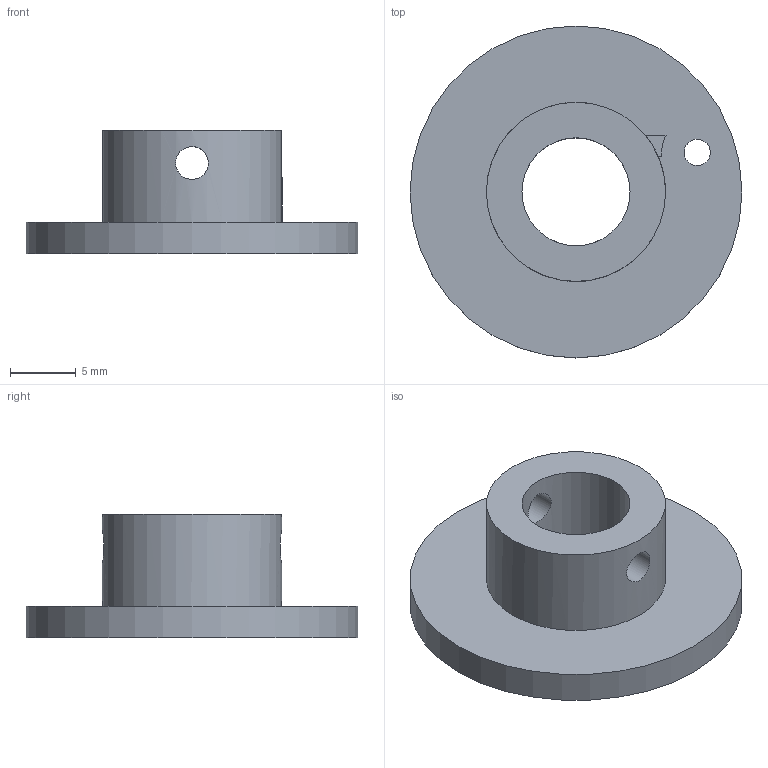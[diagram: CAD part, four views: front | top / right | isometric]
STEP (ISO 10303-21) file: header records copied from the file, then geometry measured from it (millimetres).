
FILE_DESCRIPTION(('Open CASCADE Model'),'2;1');
FILE_NAME('CM_carrier','2026-11-05T16:12:25',('Author'),('Open CASCADE') ,'Open CASCADE STEP processor 7.9','build123d','Unknown');
FILE_SCHEMA(('AUTOMOTIVE_DESIGN { 1 0 10303 214 1 1 1 1 }'));
Length unit declared in the file: millimetre
Products named in the file (2): CM_carrier
Assembly tree (1 placements, depth 2):
  CM_carrier
    CM_carrier
Bounding box: 25.2 x 25.2 x 9.4 mm (x, y, z)
Volume: 1687.5 mm3; surface area: 1660.7 mm2
Topology: 1 solids, 1 shells, 13 faces, 30 edges, 20 vertices
Faces by surface type: cylinder 7, plane 6
Full cylindrical faces by diameter (mm): 2 x1, 2.5 x2, 8.2 x1, 13.6 x1, 25.2 x1
Entity records: 1366 total; most frequent: CARTESIAN_POINT 685, DIRECTION 118, ORIENTED_EDGE 60, PCURVE 60, DEFINITIONAL_REPRESENTATION 60, LINE 52, VECTOR 52, EDGE_CURVE 30
